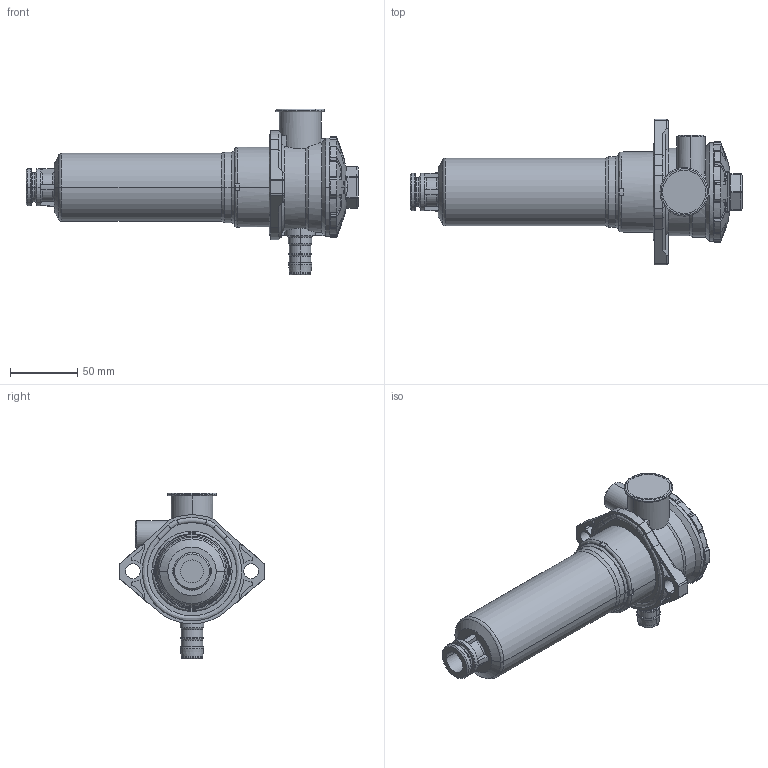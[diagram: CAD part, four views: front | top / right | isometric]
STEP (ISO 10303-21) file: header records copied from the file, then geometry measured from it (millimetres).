
FILE_DESCRIPTION((''),'2;1');
FILE_NAME('1000518106','2024-08-09T15:17:07',('a.heinl'),(''),'CREO PARAMETRIC BY PTC INC, 2023254','CREO PARAMETRIC BY PTC INC, 2023254','');
FILE_SCHEMA(('AUTOMOTIVE_DESIGN { 1 0 10303 214 1 1 1 1 }'));
Length unit declared in the file: millimetre
Products named in the file (1): 1000518106
Bounding box: 246.64 x 108 x 123 mm (x, y, z)
Volume: 583446.5 mm3; surface area: 73893.7 mm2
Topology: 1 solids, 3 shells, 930 faces, 2405 edges, 1512 vertices
Faces by surface type: plane 341, bspline 211, cylinder 183, torus 85, cone 71, extrusion 31, sphere 8
Entity records: 57255 total; most frequent: CARTESIAN_POINT 19252, ORIENTED_EDGE 4794, PRESENTATION_STYLE_ASSIGNMENT 3359, DIRECTION 3259, STYLED_ITEM 2429, CURVE_STYLE 2428, EDGE_CURVE 2397, FILL_AREA_STYLE_COLOUR 1751
